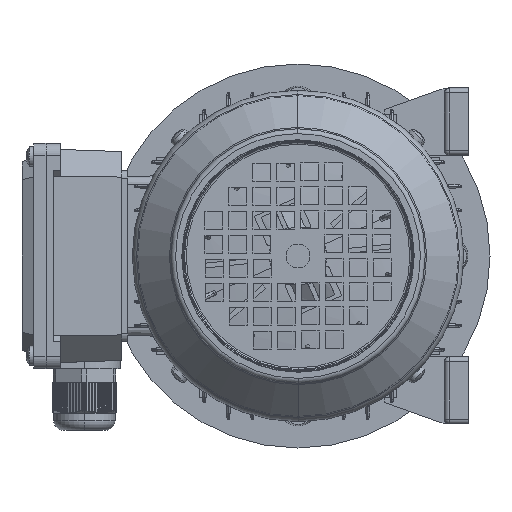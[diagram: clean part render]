
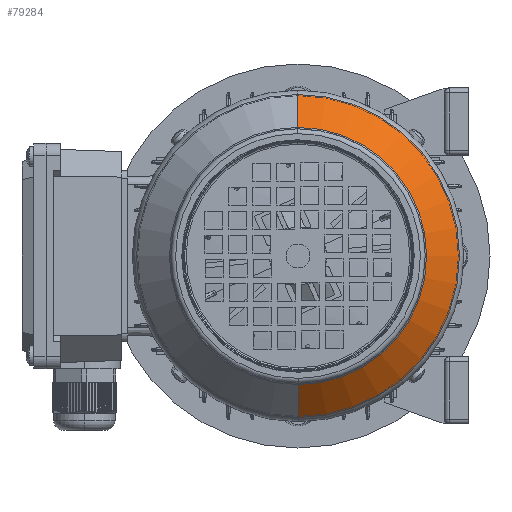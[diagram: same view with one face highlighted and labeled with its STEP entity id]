
A CAD part, left-side view. The second image highlights one B-rep face of the part: STEP entity #79284.
In plain terms, the highlighted conical face has half-angle 45 degrees and reference radius 53.586 mm.
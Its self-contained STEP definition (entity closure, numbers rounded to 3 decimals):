
#807 = LINE ( 'NONE', #96551, #88268 ) ;
#4674 = CARTESIAN_POINT ( 'NONE',  ( 124.414, 0., 0. ) ) ;
#5594 = CARTESIAN_POINT ( 'NONE',  ( 110.707, 0., 67.293 ) ) ;
#9026 = EDGE_LOOP ( 'NONE', ( #97416, #13056, #56147, #68073 ) ) ;
#13056 = ORIENTED_EDGE ( 'NONE', *, *, #63813, .T. ) ;
#19135 = DIRECTION ( 'NONE',  ( -0.707, 0., -0.707 ) ) ;
#28255 = CARTESIAN_POINT ( 'NONE',  ( 124.414, 0., 53.586 ) ) ;
#33238 = CARTESIAN_POINT ( 'NONE',  ( 124.414, 0., -53.586 ) ) ;
#34219 = CIRCLE ( 'NONE', #44558, 67.293 ) ;
#38971 = FACE_OUTER_BOUND ( 'NONE', #9026, .T. ) ;
#39139 = DIRECTION ( 'NONE',  ( 0., 0., 1. ) ) ;
#44067 = VECTOR ( 'NONE', #19135, 1000. ) ;
#44558 = AXIS2_PLACEMENT_3D ( 'NONE', #67432, #53265, #39139 ) ;
#46119 = AXIS2_PLACEMENT_3D ( 'NONE', #4674, #128678, #114606 ) ;
#47408 = LINE ( 'NONE', #33238, #44067 ) ;
#52093 = DIRECTION ( 'NONE',  ( 0., 0., 1. ) ) ;
#52654 = EDGE_CURVE ( 'NONE', #110488, #67970, #807, .T. ) ;
#53265 = DIRECTION ( 'NONE',  ( -1., 0., 0. ) ) ;
#56147 = ORIENTED_EDGE ( 'NONE', *, *, #52654, .T. ) ;
#63813 = EDGE_CURVE ( 'NONE', #107126, #110488, #117993, .T. ) ;
#65658 = CARTESIAN_POINT ( 'NONE',  ( 124.414, 0., -53.586 ) ) ;
#66226 = DIRECTION ( 'NONE',  ( -1., 0., 0. ) ) ;
#67432 = CARTESIAN_POINT ( 'NONE',  ( 110.707, 0., 0. ) ) ;
#67970 = VERTEX_POINT ( 'NONE', #5594 ) ;
#68073 = ORIENTED_EDGE ( 'NONE', *, *, #92454, .F. ) ;
#79284 = ADVANCED_FACE ( 'NONE', ( #38971 ), #109100, .T. ) ;
#80379 = CARTESIAN_POINT ( 'NONE',  ( 124.414, 0., 0. ) ) ;
#82408 = DIRECTION ( 'NONE',  ( -0.707, 0., 0.707 ) ) ;
#88268 = VECTOR ( 'NONE', #82408, 1000. ) ;
#92454 = EDGE_CURVE ( 'NONE', #134044, #67970, #34219, .T. ) ;
#96386 = CARTESIAN_POINT ( 'NONE',  ( 110.707, 0., -67.293 ) ) ;
#96551 = CARTESIAN_POINT ( 'NONE',  ( 124.414, 0., 53.586 ) ) ;
#97416 = ORIENTED_EDGE ( 'NONE', *, *, #124041, .F. ) ;
#107126 = VERTEX_POINT ( 'NONE', #65658 ) ;
#109100 = CONICAL_SURFACE ( 'NONE', #46119, 53.586, 0.785 ) ;
#110488 = VERTEX_POINT ( 'NONE', #28255 ) ;
#114606 = DIRECTION ( 'NONE',  ( 0., 0., 1. ) ) ;
#117993 = CIRCLE ( 'NONE', #132914, 53.586 ) ;
#124041 = EDGE_CURVE ( 'NONE', #107126, #134044, #47408, .T. ) ;
#128678 = DIRECTION ( 'NONE',  ( -1., 0., 0. ) ) ;
#132914 = AXIS2_PLACEMENT_3D ( 'NONE', #80379, #66226, #52093 ) ;
#134044 = VERTEX_POINT ( 'NONE', #96386 ) ;
